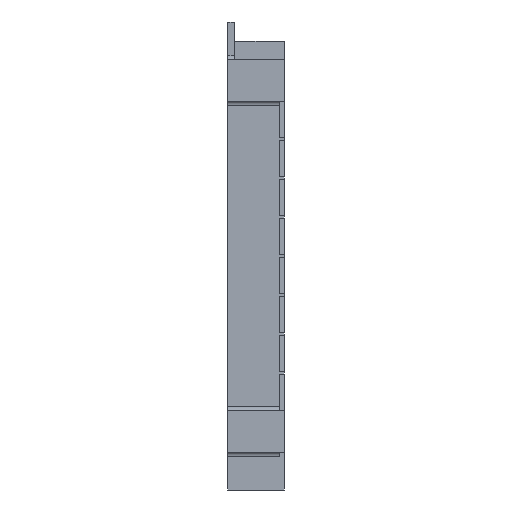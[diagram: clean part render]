
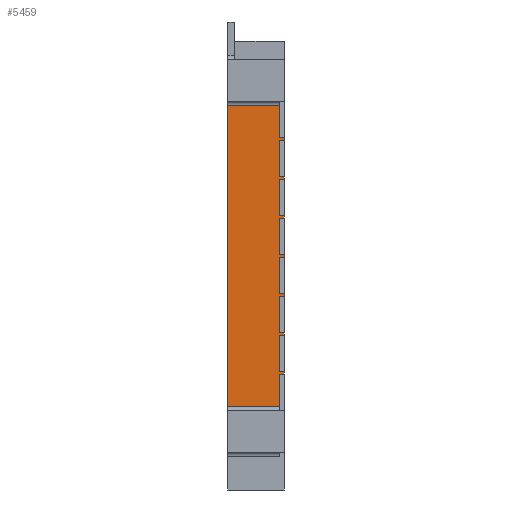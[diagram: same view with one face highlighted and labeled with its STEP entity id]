
A CAD part, left-side view. The second image highlights one B-rep face of the part: STEP entity #5459.
In plain terms, the highlighted planar face has unit normal (-1, 0, 0).
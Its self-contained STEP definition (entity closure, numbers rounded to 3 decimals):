
#227=FACE_OUTER_BOUND('',#524,.T.);
#524=EDGE_LOOP('',(#4474,#4475,#4476,#4477,#4478,#4479,#4480,#4481,#4482,
#4483,#4484,#4485,#4486,#4487,#4488,#4489,#4490,#4491,#4492,#4493,#4494,
#4495,#4496,#4497,#4498,#4499,#4500,#4501,#4502,#4503,#4504,#4505));
#759=LINE('',#7423,#1530);
#932=LINE('',#7772,#1703);
#936=LINE('',#7780,#1707);
#940=LINE('',#7788,#1711);
#944=LINE('',#7796,#1715);
#948=LINE('',#7804,#1719);
#952=LINE('',#7812,#1723);
#956=LINE('',#7820,#1727);
#1117=LINE('',#8148,#1888);
#1120=LINE('',#8154,#1891);
#1127=LINE('',#8168,#1898);
#1131=LINE('',#8177,#1902);
#1135=LINE('',#8186,#1906);
#1139=LINE('',#8195,#1910);
#1143=LINE('',#8204,#1914);
#1147=LINE('',#8213,#1918);
#1168=LINE('',#8254,#1939);
#1174=LINE('',#8263,#1945);
#1262=LINE('',#8441,#2033);
#1265=LINE('',#8445,#2036);
#1274=LINE('',#8459,#2045);
#1277=LINE('',#8464,#2048);
#1297=LINE('',#8502,#2068);
#1298=LINE('',#8503,#2069);
#1299=LINE('',#8504,#2070);
#1300=LINE('',#8505,#2071);
#1301=LINE('',#8506,#2072);
#1302=LINE('',#8507,#2073);
#1303=LINE('',#8508,#2074);
#1304=LINE('',#8509,#2075);
#1305=LINE('',#8510,#2076);
#1306=LINE('',#8511,#2077);
#1530=VECTOR('',#6029,10.);
#1703=VECTOR('',#6212,10.);
#1707=VECTOR('',#6216,10.);
#1711=VECTOR('',#6220,10.);
#1715=VECTOR('',#6224,10.);
#1719=VECTOR('',#6228,10.);
#1723=VECTOR('',#6232,10.);
#1727=VECTOR('',#6236,10.);
#1888=VECTOR('',#6479,10.);
#1891=VECTOR('',#6484,10.);
#1898=VECTOR('',#6495,10.);
#1902=VECTOR('',#6501,10.);
#1906=VECTOR('',#6507,10.);
#1910=VECTOR('',#6513,10.);
#1914=VECTOR('',#6519,10.);
#1918=VECTOR('',#6525,10.);
#1939=VECTOR('',#6564,10.);
#1945=VECTOR('',#6572,10.);
#2033=VECTOR('',#6728,10.);
#2036=VECTOR('',#6733,10.);
#2045=VECTOR('',#6752,10.);
#2048=VECTOR('',#6759,10.);
#2068=VECTOR('',#6815,10.);
#2069=VECTOR('',#6816,10.);
#2070=VECTOR('',#6817,10.);
#2071=VECTOR('',#6818,10.);
#2072=VECTOR('',#6819,10.);
#2073=VECTOR('',#6820,10.);
#2074=VECTOR('',#6821,10.);
#2075=VECTOR('',#6822,10.);
#2076=VECTOR('',#6823,10.);
#2077=VECTOR('',#6824,10.);
#2290=VERTEX_POINT('',#7420);
#2291=VERTEX_POINT('',#7422);
#2461=VERTEX_POINT('',#7769);
#2462=VERTEX_POINT('',#7771);
#2465=VERTEX_POINT('',#7777);
#2466=VERTEX_POINT('',#7779);
#2469=VERTEX_POINT('',#7785);
#2470=VERTEX_POINT('',#7787);
#2473=VERTEX_POINT('',#7793);
#2474=VERTEX_POINT('',#7795);
#2477=VERTEX_POINT('',#7801);
#2478=VERTEX_POINT('',#7803);
#2481=VERTEX_POINT('',#7809);
#2482=VERTEX_POINT('',#7811);
#2485=VERTEX_POINT('',#7817);
#2486=VERTEX_POINT('',#7819);
#2612=VERTEX_POINT('',#8146);
#2614=VERTEX_POINT('',#8152);
#2617=VERTEX_POINT('',#8162);
#2619=VERTEX_POINT('',#8166);
#2621=VERTEX_POINT('',#8171);
#2623=VERTEX_POINT('',#8175);
#2625=VERTEX_POINT('',#8180);
#2627=VERTEX_POINT('',#8184);
#2629=VERTEX_POINT('',#8189);
#2631=VERTEX_POINT('',#8193);
#2633=VERTEX_POINT('',#8198);
#2635=VERTEX_POINT('',#8202);
#2637=VERTEX_POINT('',#8207);
#2639=VERTEX_POINT('',#8211);
#2648=VERTEX_POINT('',#8250);
#2650=VERTEX_POINT('',#8253);
#2832=EDGE_CURVE('',#2290,#2291,#759,.T.);
#3008=EDGE_CURVE('',#2462,#2461,#932,.T.);
#3012=EDGE_CURVE('',#2466,#2465,#936,.T.);
#3016=EDGE_CURVE('',#2470,#2469,#940,.T.);
#3020=EDGE_CURVE('',#2474,#2473,#944,.T.);
#3024=EDGE_CURVE('',#2478,#2477,#948,.T.);
#3028=EDGE_CURVE('',#2482,#2481,#952,.T.);
#3032=EDGE_CURVE('',#2486,#2485,#956,.T.);
#3201=EDGE_CURVE('',#2612,#2290,#1117,.T.);
#3204=EDGE_CURVE('',#2612,#2614,#1120,.T.);
#3211=EDGE_CURVE('',#2617,#2619,#1127,.T.);
#3215=EDGE_CURVE('',#2621,#2623,#1131,.T.);
#3219=EDGE_CURVE('',#2625,#2627,#1135,.T.);
#3223=EDGE_CURVE('',#2629,#2631,#1139,.T.);
#3227=EDGE_CURVE('',#2633,#2635,#1143,.T.);
#3231=EDGE_CURVE('',#2637,#2639,#1147,.T.);
#3253=EDGE_CURVE('',#2650,#2648,#1168,.T.);
#3259=EDGE_CURVE('',#2291,#2648,#1174,.T.);
#3350=EDGE_CURVE('',#2631,#2470,#1262,.T.);
#3353=EDGE_CURVE('',#2473,#2629,#1265,.T.);
#3362=EDGE_CURVE('',#2485,#2617,#1274,.T.);
#3365=EDGE_CURVE('',#2619,#2482,#1277,.T.);
#3385=EDGE_CURVE('',#2614,#2486,#1297,.T.);
#3386=EDGE_CURVE('',#2481,#2621,#1298,.T.);
#3387=EDGE_CURVE('',#2623,#2478,#1299,.T.);
#3388=EDGE_CURVE('',#2477,#2625,#1300,.T.);
#3389=EDGE_CURVE('',#2627,#2474,#1301,.T.);
#3390=EDGE_CURVE('',#2469,#2633,#1302,.T.);
#3391=EDGE_CURVE('',#2635,#2466,#1303,.T.);
#3392=EDGE_CURVE('',#2465,#2637,#1304,.T.);
#3393=EDGE_CURVE('',#2639,#2462,#1305,.T.);
#3394=EDGE_CURVE('',#2461,#2650,#1306,.T.);
#4474=ORIENTED_EDGE('',*,*,#3385,.T.);
#4475=ORIENTED_EDGE('',*,*,#3032,.T.);
#4476=ORIENTED_EDGE('',*,*,#3362,.T.);
#4477=ORIENTED_EDGE('',*,*,#3211,.T.);
#4478=ORIENTED_EDGE('',*,*,#3365,.T.);
#4479=ORIENTED_EDGE('',*,*,#3028,.T.);
#4480=ORIENTED_EDGE('',*,*,#3386,.T.);
#4481=ORIENTED_EDGE('',*,*,#3215,.T.);
#4482=ORIENTED_EDGE('',*,*,#3387,.T.);
#4483=ORIENTED_EDGE('',*,*,#3024,.T.);
#4484=ORIENTED_EDGE('',*,*,#3388,.T.);
#4485=ORIENTED_EDGE('',*,*,#3219,.T.);
#4486=ORIENTED_EDGE('',*,*,#3389,.T.);
#4487=ORIENTED_EDGE('',*,*,#3020,.T.);
#4488=ORIENTED_EDGE('',*,*,#3353,.T.);
#4489=ORIENTED_EDGE('',*,*,#3223,.T.);
#4490=ORIENTED_EDGE('',*,*,#3350,.T.);
#4491=ORIENTED_EDGE('',*,*,#3016,.T.);
#4492=ORIENTED_EDGE('',*,*,#3390,.T.);
#4493=ORIENTED_EDGE('',*,*,#3227,.T.);
#4494=ORIENTED_EDGE('',*,*,#3391,.T.);
#4495=ORIENTED_EDGE('',*,*,#3012,.T.);
#4496=ORIENTED_EDGE('',*,*,#3392,.T.);
#4497=ORIENTED_EDGE('',*,*,#3231,.T.);
#4498=ORIENTED_EDGE('',*,*,#3393,.T.);
#4499=ORIENTED_EDGE('',*,*,#3008,.T.);
#4500=ORIENTED_EDGE('',*,*,#3394,.T.);
#4501=ORIENTED_EDGE('',*,*,#3253,.T.);
#4502=ORIENTED_EDGE('',*,*,#3259,.F.);
#4503=ORIENTED_EDGE('',*,*,#2832,.F.);
#4504=ORIENTED_EDGE('',*,*,#3201,.F.);
#4505=ORIENTED_EDGE('',*,*,#3204,.T.);
#5210=PLANE('',#5734);
#5459=ADVANCED_FACE('',(#227),#5210,.T.);
#5734=AXIS2_PLACEMENT_3D('',#8501,#6813,#6814);
#6029=DIRECTION('',(0.,0.,1.));
#6212=DIRECTION('',(0.,0.,1.));
#6216=DIRECTION('',(0.,0.,1.));
#6220=DIRECTION('',(0.,0.,1.));
#6224=DIRECTION('',(0.,0.,1.));
#6228=DIRECTION('',(0.,0.,1.));
#6232=DIRECTION('',(0.,0.,1.));
#6236=DIRECTION('',(0.,0.,1.));
#6479=DIRECTION('',(0.,1.,0.));
#6484=DIRECTION('',(0.,0.,1.));
#6495=DIRECTION('',(0.,0.,1.));
#6501=DIRECTION('',(0.,0.,1.));
#6507=DIRECTION('',(0.,0.,1.));
#6513=DIRECTION('',(0.,0.,1.));
#6519=DIRECTION('',(0.,0.,1.));
#6525=DIRECTION('',(0.,0.,1.));
#6564=DIRECTION('',(0.,0.,1.));
#6572=DIRECTION('',(0.,-1.,0.));
#6728=DIRECTION('',(0.,-1.,0.));
#6733=DIRECTION('',(0.,1.,0.));
#6752=DIRECTION('',(0.,1.,0.));
#6759=DIRECTION('',(0.,-1.,0.));
#6813=DIRECTION('center_axis',(-1.,0.,0.));
#6814=DIRECTION('ref_axis',(0.,0.,1.));
#6815=DIRECTION('',(0.,-1.,0.));
#6816=DIRECTION('',(0.,1.,0.));
#6817=DIRECTION('',(0.,-1.,0.));
#6818=DIRECTION('',(0.,1.,0.));
#6819=DIRECTION('',(0.,-1.,0.));
#6820=DIRECTION('',(0.,1.,0.));
#6821=DIRECTION('',(0.,-1.,0.));
#6822=DIRECTION('',(0.,1.,0.));
#6823=DIRECTION('',(0.,-1.,0.));
#6824=DIRECTION('',(0.,1.,0.));
#7420=CARTESIAN_POINT('',(-91.8,26.,-69.5));
#7422=CARTESIAN_POINT('',(-91.8,26.,69.5));
#7423=CARTESIAN_POINT('',(-91.8,26.,-107.));
#7769=CARTESIAN_POINT('',(-91.8,0.,54.5));
#7771=CARTESIAN_POINT('',(-91.8,0.,53.5));
#7772=CARTESIAN_POINT('',(-91.8,0.,-107.));
#7777=CARTESIAN_POINT('',(-91.8,0.,36.5));
#7779=CARTESIAN_POINT('',(-91.8,0.,35.5));
#7780=CARTESIAN_POINT('',(-91.8,0.,-107.));
#7785=CARTESIAN_POINT('',(-91.8,0.,18.5));
#7787=CARTESIAN_POINT('',(-91.8,0.,17.5));
#7788=CARTESIAN_POINT('',(-91.8,0.,-107.));
#7793=CARTESIAN_POINT('',(-91.8,0.,0.5));
#7795=CARTESIAN_POINT('',(-91.8,0.,-0.5));
#7796=CARTESIAN_POINT('',(-91.8,0.,-107.));
#7801=CARTESIAN_POINT('',(-91.8,0.,-17.5));
#7803=CARTESIAN_POINT('',(-91.8,0.,-18.5));
#7804=CARTESIAN_POINT('',(-91.8,0.,-107.));
#7809=CARTESIAN_POINT('',(-91.8,0.,-35.5));
#7811=CARTESIAN_POINT('',(-91.8,0.,-36.5));
#7812=CARTESIAN_POINT('',(-91.8,0.,-107.));
#7817=CARTESIAN_POINT('',(-91.8,0.,-53.5));
#7819=CARTESIAN_POINT('',(-91.8,0.,-54.5));
#7820=CARTESIAN_POINT('',(-91.8,0.,-107.));
#8146=CARTESIAN_POINT('',(-91.8,2.,-69.5));
#8148=CARTESIAN_POINT('',(-91.8,0.,-69.5));
#8152=CARTESIAN_POINT('',(-91.8,2.,-54.5));
#8154=CARTESIAN_POINT('',(-91.8,2.,-58.25));
#8162=CARTESIAN_POINT('',(-91.8,2.,-53.5));
#8166=CARTESIAN_POINT('',(-91.8,2.,-36.5));
#8168=CARTESIAN_POINT('',(-91.8,2.,-49.25));
#8171=CARTESIAN_POINT('',(-91.8,2.,-35.5));
#8175=CARTESIAN_POINT('',(-91.8,2.,-18.5));
#8177=CARTESIAN_POINT('',(-91.8,2.,-40.25));
#8180=CARTESIAN_POINT('',(-91.8,2.,-17.5));
#8184=CARTESIAN_POINT('',(-91.8,2.,-0.5));
#8186=CARTESIAN_POINT('',(-91.8,2.,-31.25));
#8189=CARTESIAN_POINT('',(-91.8,2.,0.5));
#8193=CARTESIAN_POINT('',(-91.8,2.,17.5));
#8195=CARTESIAN_POINT('',(-91.8,2.,-22.25));
#8198=CARTESIAN_POINT('',(-91.8,2.,18.5));
#8202=CARTESIAN_POINT('',(-91.8,2.,35.5));
#8204=CARTESIAN_POINT('',(-91.8,2.,-13.25));
#8207=CARTESIAN_POINT('',(-91.8,2.,36.5));
#8211=CARTESIAN_POINT('',(-91.8,2.,53.5));
#8213=CARTESIAN_POINT('',(-91.8,2.,-4.25));
#8250=CARTESIAN_POINT('',(-91.8,2.,69.5));
#8253=CARTESIAN_POINT('',(-91.8,2.,54.5));
#8254=CARTESIAN_POINT('',(-91.8,2.,4.75));
#8263=CARTESIAN_POINT('',(-91.8,0.,69.5));
#8441=CARTESIAN_POINT('',(-91.8,0.,17.5));
#8445=CARTESIAN_POINT('',(-91.8,0.,0.5));
#8459=CARTESIAN_POINT('',(-91.8,0.,-53.5));
#8464=CARTESIAN_POINT('',(-91.8,0.,-36.5));
#8501=CARTESIAN_POINT('Origin',(-91.8,0.,-53.5));
#8502=CARTESIAN_POINT('',(-91.8,0.,-54.5));
#8503=CARTESIAN_POINT('',(-91.8,0.,-35.5));
#8504=CARTESIAN_POINT('',(-91.8,0.,-18.5));
#8505=CARTESIAN_POINT('',(-91.8,0.,-17.5));
#8506=CARTESIAN_POINT('',(-91.8,0.,-0.5));
#8507=CARTESIAN_POINT('',(-91.8,0.,18.5));
#8508=CARTESIAN_POINT('',(-91.8,0.,35.5));
#8509=CARTESIAN_POINT('',(-91.8,0.,36.5));
#8510=CARTESIAN_POINT('',(-91.8,0.,53.5));
#8511=CARTESIAN_POINT('',(-91.8,0.,54.5));
